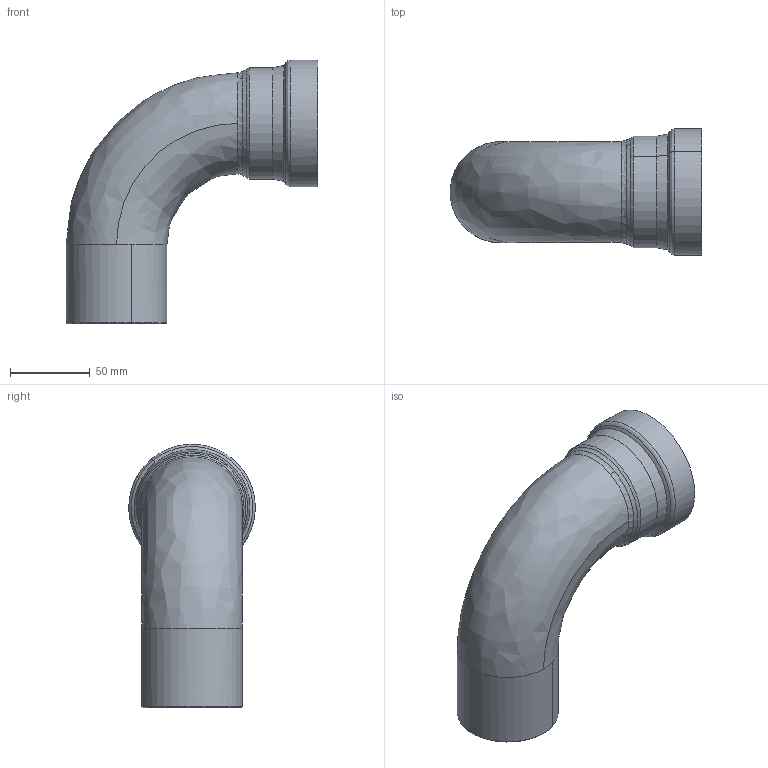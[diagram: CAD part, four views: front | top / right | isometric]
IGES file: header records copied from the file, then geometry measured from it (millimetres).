
Start section: 3D InterOp IGES (Version 25 0 1), Spatial Corp. Copyright (c) 1999-2007.
Global section: file name: pim0004457.igs; native system: Spatial Corp.; preprocessor: 3D InterOp ACIS/IGES; author: Cad-Pim; organization: TransMagic, Inc.; date: 20150430.074313; units: millimetre
Bounding box: 158.18 x 79.39 x 165.67 mm (x, y, z)
Volume: 612646.1 mm3; surface area: 62560.9 mm2
Topology: 1 solids, 1 shells, 29 faces, 80 edges, 54 vertices
Faces by surface type: bspline 11, cone 10, cylinder 8
